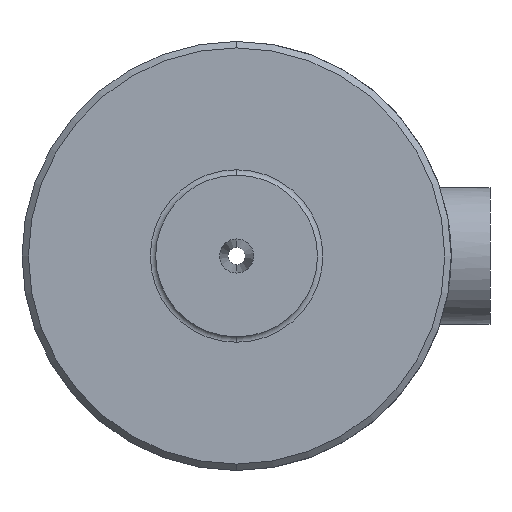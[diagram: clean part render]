
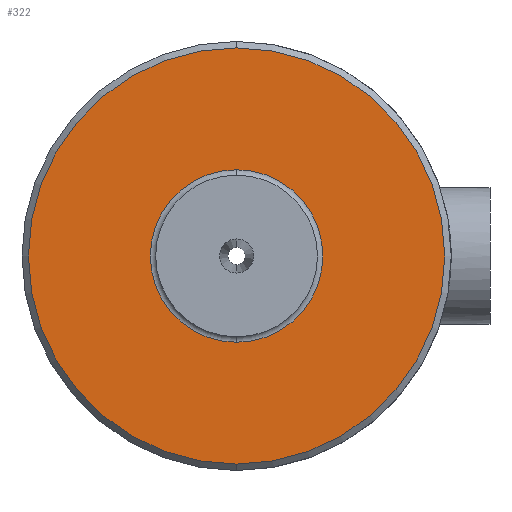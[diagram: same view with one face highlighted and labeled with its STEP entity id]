
A CAD part, front view. The second image highlights one B-rep face of the part: STEP entity #322.
In plain terms, the highlighted planar face has unit normal (0, -1, 0).
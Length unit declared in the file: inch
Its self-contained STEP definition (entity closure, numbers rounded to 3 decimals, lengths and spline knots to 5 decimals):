
#55 = VERTEX_POINT ( 'NONE', #443 ) ;
#57 = VERTEX_POINT ( 'NONE', #442 ) ;
#58 = EDGE_CURVE ( 'NONE', #57, #55, #441, .T. ) ;
#65 = EDGE_CURVE ( 'NONE', #83, #85, #488, .T. ) ;
#83 = VERTEX_POINT ( 'NONE', #508 ) ;
#85 = VERTEX_POINT ( 'NONE', #504 ) ;
#319 = EDGE_CURVE ( 'NONE', #55, #57, #984, .T. ) ;
#322 = ADVANCED_FACE ( 'NONE', ( #979, #978 ), #977, .T. ) ;
#323 = EDGE_LOOP ( 'NONE', ( #324, #325 ) ) ;
#324 = ORIENTED_EDGE ( 'NONE', *, *, #319, .T. ) ;
#325 = ORIENTED_EDGE ( 'NONE', *, *, #58, .T. ) ;
#326 = EDGE_LOOP ( 'NONE', ( #327, #328 ) ) ;
#327 = ORIENTED_EDGE ( 'NONE', *, *, #65, .F. ) ;
#328 = ORIENTED_EDGE ( 'NONE', *, *, #329, .F. ) ;
#329 = EDGE_CURVE ( 'NONE', #85, #83, #975, .T. ) ;
#437 = DIRECTION ( 'NONE',  ( 0., 0., 1. ) ) ;
#438 = DIRECTION ( 'NONE',  ( 0., 1., 0. ) ) ;
#439 = CARTESIAN_POINT ( 'NONE',  ( 0., -1., 0. ) ) ;
#440 = AXIS2_PLACEMENT_3D ( 'NONE', #439, #438, #437 ) ;
#441 = CIRCLE ( 'NONE', #440, 0.4 ) ;
#442 = CARTESIAN_POINT ( 'NONE',  ( 0., -1., -0.4 ) ) ;
#443 = CARTESIAN_POINT ( 'NONE',  ( 0., -1., 0.4 ) ) ;
#484 = DIRECTION ( 'NONE',  ( 0., 0., 1. ) ) ;
#485 = DIRECTION ( 'NONE',  ( 0., 1., 0. ) ) ;
#486 = CARTESIAN_POINT ( 'NONE',  ( 0., -1., 0. ) ) ;
#487 = AXIS2_PLACEMENT_3D ( 'NONE', #486, #485, #484 ) ;
#488 = CIRCLE ( 'NONE', #487, 0.965 ) ;
#504 = CARTESIAN_POINT ( 'NONE',  ( 0., -1., -0.965 ) ) ;
#508 = CARTESIAN_POINT ( 'NONE',  ( 0., -1., 0.965 ) ) ;
#968 = DIRECTION ( 'NONE',  ( 0., 0., 1. ) ) ;
#969 = DIRECTION ( 'NONE',  ( 0., 1., 0. ) ) ;
#970 = CARTESIAN_POINT ( 'NONE',  ( 0., -1., 0. ) ) ;
#971 = AXIS2_PLACEMENT_3D ( 'NONE', #970, #969, #968 ) ;
#972 = DIRECTION ( 'NONE',  ( 0., 0., -1. ) ) ;
#973 = DIRECTION ( 'NONE',  ( 0., -1., 0. ) ) ;
#974 = CARTESIAN_POINT ( 'NONE',  ( 0.965, -1., 0. ) ) ;
#975 = CIRCLE ( 'NONE', #971, 0.965 ) ;
#976 = AXIS2_PLACEMENT_3D ( 'NONE', #974, #973, #972 ) ;
#977 = PLANE ( 'NONE',  #976 ) ;
#978 = FACE_OUTER_BOUND ( 'NONE', #326, .T. ) ;
#979 = FACE_BOUND ( 'NONE', #323, .T. ) ;
#980 = DIRECTION ( 'NONE',  ( 0., 0., 1. ) ) ;
#981 = DIRECTION ( 'NONE',  ( 0., 1., 0. ) ) ;
#982 = CARTESIAN_POINT ( 'NONE',  ( 0., -1., 0. ) ) ;
#983 = AXIS2_PLACEMENT_3D ( 'NONE', #982, #981, #980 ) ;
#984 = CIRCLE ( 'NONE', #983, 0.4 ) ;
